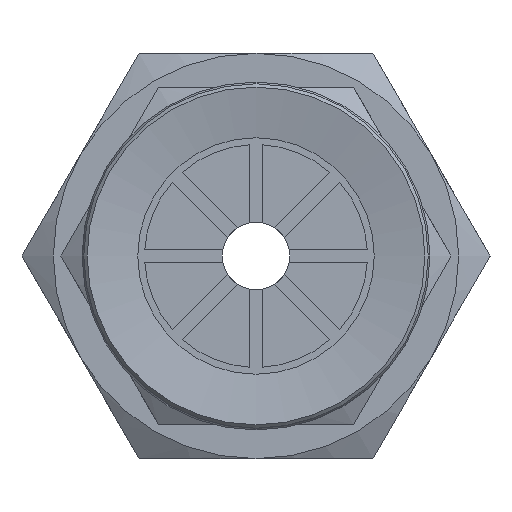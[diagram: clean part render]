
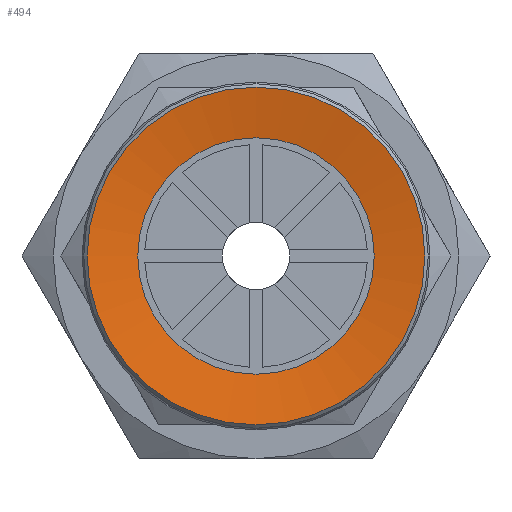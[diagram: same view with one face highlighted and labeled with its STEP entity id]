
A CAD part, front view. The second image highlights one B-rep face of the part: STEP entity #494.
In plain terms, the highlighted conical face has half-angle 80 degrees and reference radius 5 mm.
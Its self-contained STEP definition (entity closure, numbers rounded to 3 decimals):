
#494=ADVANCED_FACE('',(#757,#758),#759,.F.);
#757=FACE_BOUND('',#1058,.T.);
#758=FACE_OUTER_BOUND('',#1059,.T.);
#759=CONICAL_SURFACE('',#1060,5.0,1.396);
#1058=EDGE_LOOP('',(#1784));
#1059=EDGE_LOOP('',(#1785));
#1060=AXIS2_PLACEMENT_3D('',#1786,#1787,#1788);
#1784=ORIENTED_EDGE('',*,*,#2192,.T.);
#1785=ORIENTED_EDGE('',*,*,#2198,.F.);
#1786=CARTESIAN_POINT('',(0.0,0.,0.));
#1787=DIRECTION('',(0.0,0.,-1.0));
#1788=DIRECTION('',(0.0,1.0,0.));
#2192=EDGE_CURVE('',#2593,#2593,#2594,.T.);
#2198=EDGE_CURVE('',#2601,#2601,#2602,.T.);
#2593=VERTEX_POINT('',#3361);
#2594=CIRCLE('',#3362,3.5);
#2601=VERTEX_POINT('',#3372);
#2602=CIRCLE('',#3373,5.0);
#3361=CARTESIAN_POINT('',(0.0,-3.5,0.264));
#3362=AXIS2_PLACEMENT_3D('',#3776,#3777,#3778);
#3372=CARTESIAN_POINT('',(0.0,-5.0,0.));
#3373=AXIS2_PLACEMENT_3D('',#3788,#3789,#3790);
#3776=CARTESIAN_POINT('',(0.0,0.,0.264));
#3777=DIRECTION('',(0.0,0.,1.0));
#3778=DIRECTION('',(0.0,-1.0,0.));
#3788=CARTESIAN_POINT('',(0.0,0.,0.));
#3789=DIRECTION('',(0.0,0.,1.0));
#3790=DIRECTION('',(0.0,-1.0,0.));
